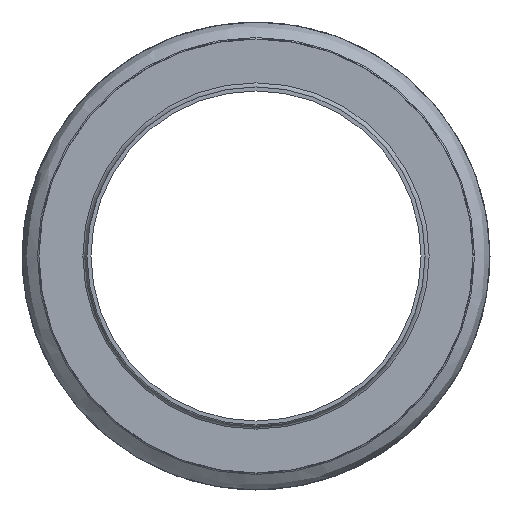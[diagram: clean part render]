
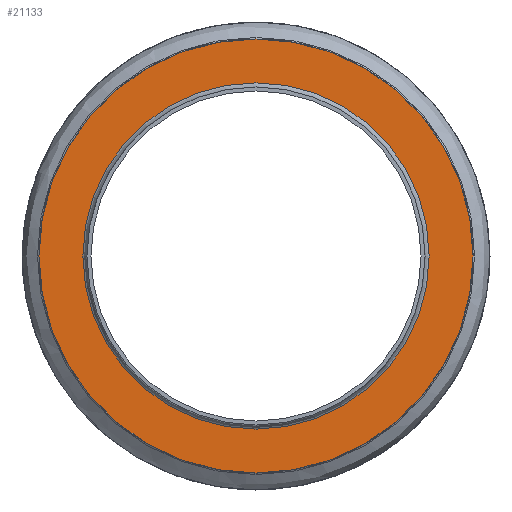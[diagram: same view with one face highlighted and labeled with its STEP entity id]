
A CAD part, front view. The second image highlights one B-rep face of the part: STEP entity #21133.
In plain terms, the highlighted planar face has unit normal (0, -1, 0) as drawn and (0, 1, 0) by its records, which use the part's own axes.
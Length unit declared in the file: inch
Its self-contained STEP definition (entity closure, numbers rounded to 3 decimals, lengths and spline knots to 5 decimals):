
#21071=CARTESIAN_POINT('',(-0.5245,1.75,0.));
#21072=VERTEX_POINT('',#21071);
#21073=CARTESIAN_POINT('',(0.0,1.75,0.0));
#21074=DIRECTION('',(0.0,-1.0,0.0));
#21075=DIRECTION('',(1.0,0.0,0.0));
#21076=AXIS2_PLACEMENT_3D('',#21073,#21074,#21075);
#21077=CIRCLE('',#21076,0.5245);
#21078=EDGE_CURVE('',#21072,#21072,#21077,.T.);
#21099=CARTESIAN_POINT('',(-0.6575,1.75,0.));
#21100=VERTEX_POINT('',#21099);
#21101=CARTESIAN_POINT('',(0.0,1.75,0.0));
#21102=DIRECTION('',(0.0,-1.0,0.0));
#21103=DIRECTION('',(1.0,0.0,0.0));
#21104=AXIS2_PLACEMENT_3D('',#21101,#21102,#21103);
#21105=CIRCLE('',#21104,0.6575);
#21106=EDGE_CURVE('',#21100,#21100,#21105,.T.);
#21122=CARTESIAN_POINT('',(0.0,1.75,0.0));
#21123=DIRECTION('',(0.0,-1.0,0.0));
#21124=DIRECTION('',(0.0,0.0,-1.0));
#21125=AXIS2_PLACEMENT_3D('',#21122,#21123,#21124);
#21126=PLANE('',#21125);
#21127=ORIENTED_EDGE('',*,*,#21106,.F.);
#21128=EDGE_LOOP('',(#21127));
#21129=FACE_OUTER_BOUND('',#21128,.T.);
#21130=ORIENTED_EDGE('',*,*,#21078,.T.);
#21131=EDGE_LOOP('',(#21130));
#21132=FACE_BOUND('',#21131,.T.);
#21133=ADVANCED_FACE('',(#21129,#21132),#21126,.F.);
